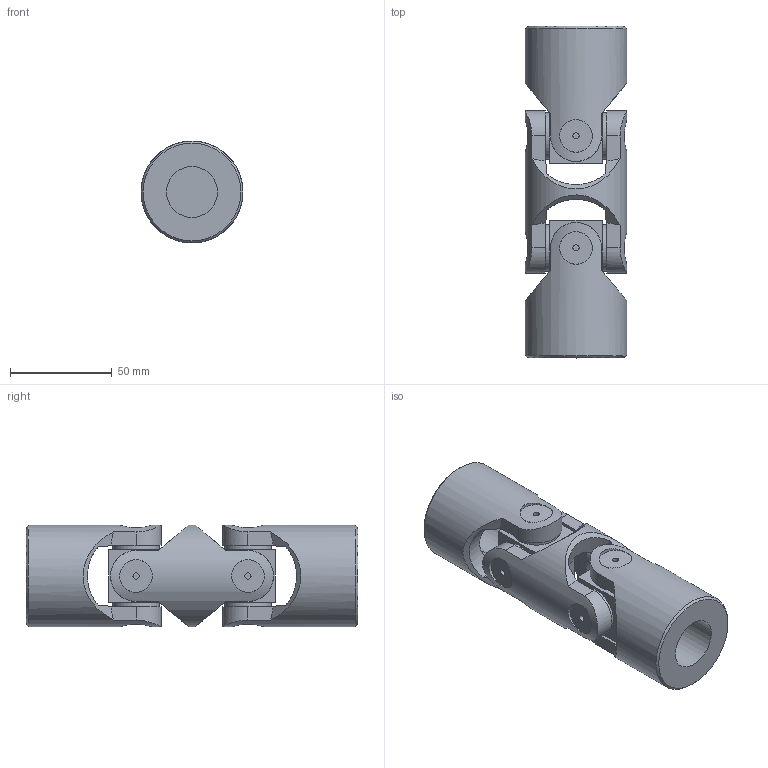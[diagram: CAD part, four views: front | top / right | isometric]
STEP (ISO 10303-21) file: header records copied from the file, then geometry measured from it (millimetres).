
FILE_DESCRIPTION(/* description */ (''),/* implementation_level */ '2;1');
FILE_NAME(/* name */ '\\SRV2016\Societa\Stefano\Disegni 3D\00Catalogo 3D\02Doppi GD-GBD\SG0D2500.stp',/* time_stamp */ '2021-11-23T15:36:24+01:00',/* author */ ('acquisti'),/* organization */ (''),/* preprocessor_version */ 'ST-DEVELOPER v15.6',/* originating_system */ 'Autodesk Inventor 2015',/* authorisation */ '');
FILE_SCHEMA (('AUTOMOTIVE_DESIGN { 1 0 10303 214 3 1 1 }'));
Length unit declared in the file: millimetre
Products named in the file (4): 5G MOD; 5G SFE; 5G MOS; Ø50_5GD-00_SG0D2500
Assembly tree (5 placements, depth 2):
  Ø50_5GD-00_SG0D2500
    5G MOD
    5G SFE  x2
    5G MOS  x2
Bounding box: 50 x 163 x 50 mm (x, y, z)
Volume: 207674.2 mm3; surface area: 52052.5 mm2
Topology: 5 solids, 5 shells, 137 faces, 329 edges, 222 vertices
Faces by surface type: plane 70, cylinder 41, cone 22, torus 4
Full cylindrical faces by diameter (mm): 3 x8, 16 x8, 23 x8, 25 x2, 28 x4, 50 x3
Entity records: 3328 total; most frequent: CARTESIAN_POINT 1238, ORIENTED_EDGE 398, DIRECTION 394, EDGE_CURVE 199, AXIS2_PLACEMENT_3D 173, VERTEX_POINT 153, EDGE_LOOP 140, FACE_OUTER_BOUND 94
